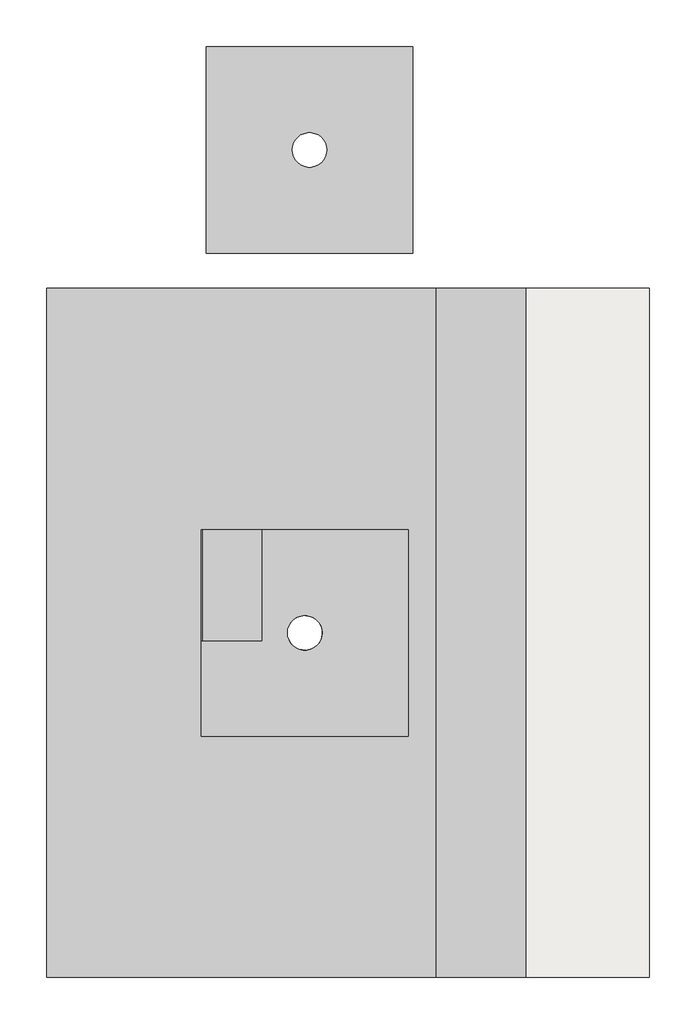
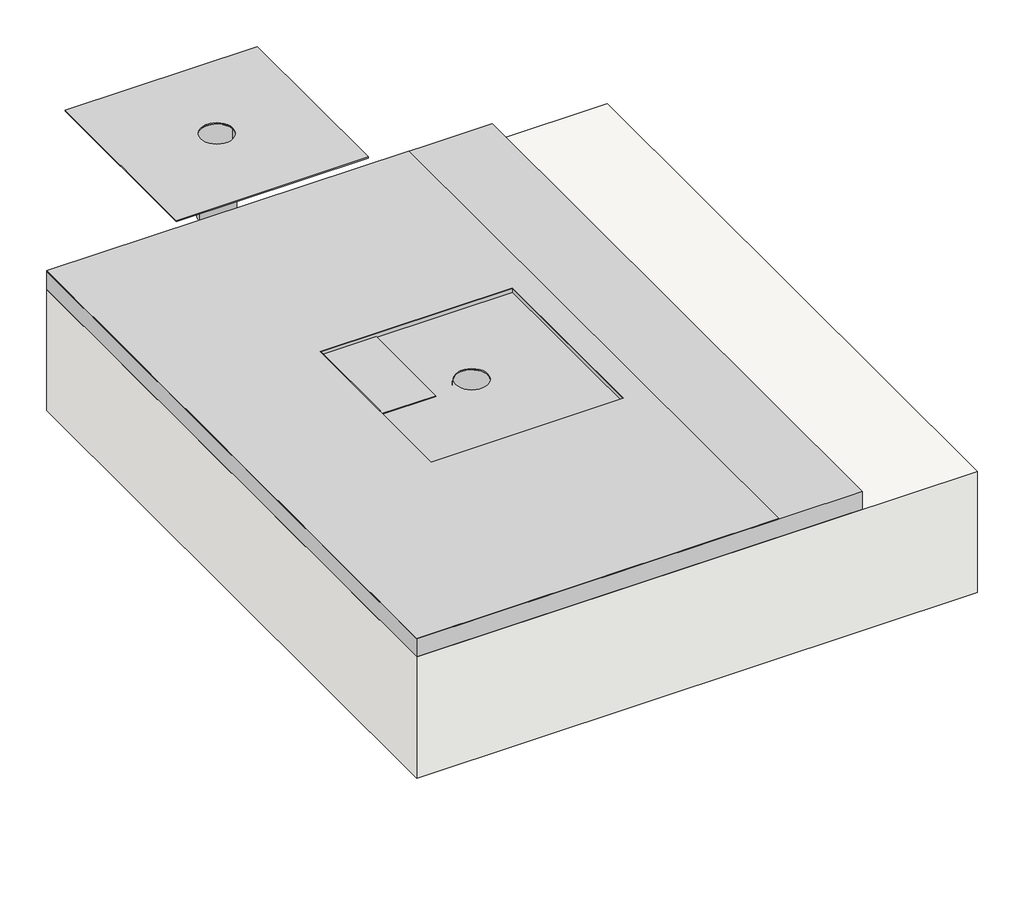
# One storey: 3 proxies, 1 slab.
"""IFC4 building model written with IfcOpenShell, lengths in millimetres."""

from ifc_helpers import new_model, si_unit, point, frame, frame_2d, origin, place, context, project, spatial, polyline, circle_curve, trimmed, segment, composite_curve, outline, extrude, transform, mapped, element, save
from components import generic_models_3323e8c3, entourage_57994eb1, generic_models_708a6e04

model = new_model("IFC4")

# Units and contexts
model_context = context("Model", 3, world=origin())
ifc_project = project(units=[si_unit("LENGTHUNIT", "METRE", prefix="MILLI")], contexts=[model_context])

# Site, building, storey
site = spatial("IfcSite", under=ifc_project)
building = spatial("IfcBuilding", under=site)
storey = spatial("IfcBuildingStorey", under=building, Name="ARQ Térreo", Elevation=-2.523798)

# Proxies
placement = place(None, origin())
generic_models_shape = generic_models_3323e8c3(model_context)
element("IfcBuildingElementProxy", 1, Name="IMPER:IMPER:433934 : IMPER:IMPER:433934", ObjectType="IMPER:IMPER:433934 : IMPER:IMPER:433934", at=placement, inside=storey, context=model_context, shape_type="MappedRepresentation", body=[
    mapped(generic_models_shape, transform((0.0, 0.0, 0.0), x_axis=(1.0, 0.0, 0.0), y_axis=(0.0, 1.0, 0.0), z_axis=(0.0, 0.0, 1.0))),
])
entourage_shape = entourage_57994eb1(model_context)
element("IfcBuildingElementProxy", 2, Name="Viaboc Ralo 50mm : Viaboc Ralo 50mm", ObjectType="Viaboc Ralo 50mm : Viaboc Ralo 50mm", at=placement, inside=storey, context=model_context, shape_type="MappedRepresentation", body=[
    mapped(entourage_shape, transform((929.5519189, -536.9387185, -2.523798), x_axis=(1.0, 0.0, 0.0), y_axis=(0.0, 1.0, 0.0), z_axis=(0.0, 0.0, 1.0))),
])
generic_models_2_shape = generic_models_708a6e04(model_context)
element("IfcBuildingElementProxy", 3, Name="Modelos genéricos 1 : Modelos genéricos 1", ObjectType="Modelos genéricos 1 : Modelos genéricos 1", at=placement, inside=storey, context=model_context, shape_type="MappedRepresentation", body=[
    mapped(generic_models_2_shape, transform((0.0, 0.0, 0.0), x_axis=(1.0, 0.0, 0.0), y_axis=(0.0, 1.0, 0.0), z_axis=(0.0, 0.0, 1.0))),
])

# Slab
element("IfcSlab", 4, ObjectType="Piso:LAJE CONCRETO", at=placement, inside=storey, context=model_context, shape_type="SweptSolid", body=[
    extrude(outline(polyline([(1422.8103968, -1738.0570215), (547.8103968, -1738.0570215), (547.8103968, -738.0570215), (1422.8103968, -738.0570215), (1422.8103968, -1738.0570215)]), holes=[composite_curve([segment(trimmed(circle_curve(frame_2d((922.8103968, -1238.0570215)), 30.0), [point((892.8103968, -1238.0570215))], [point((952.8103968, -1238.0570215))], True, "CARTESIAN"), True, "CONTINUOUS"), segment(trimmed(circle_curve(frame_2d((922.8103968, -1238.0570215)), 30.0), [point((952.8103968, -1238.0570215))], [point((892.8103968, -1238.0570215))], True, "CARTESIAN"), True, "CONTINUOUS")], self_intersect=False)]), frame((0.0, 0.0, -202.523798), z_axis=(0.0, 0.0, 1.0), x_axis=(1.0, 0.0, 0.0)), (0.0, 0.0, 1.0), 200.0),
])

save(model, "model.ifc")
